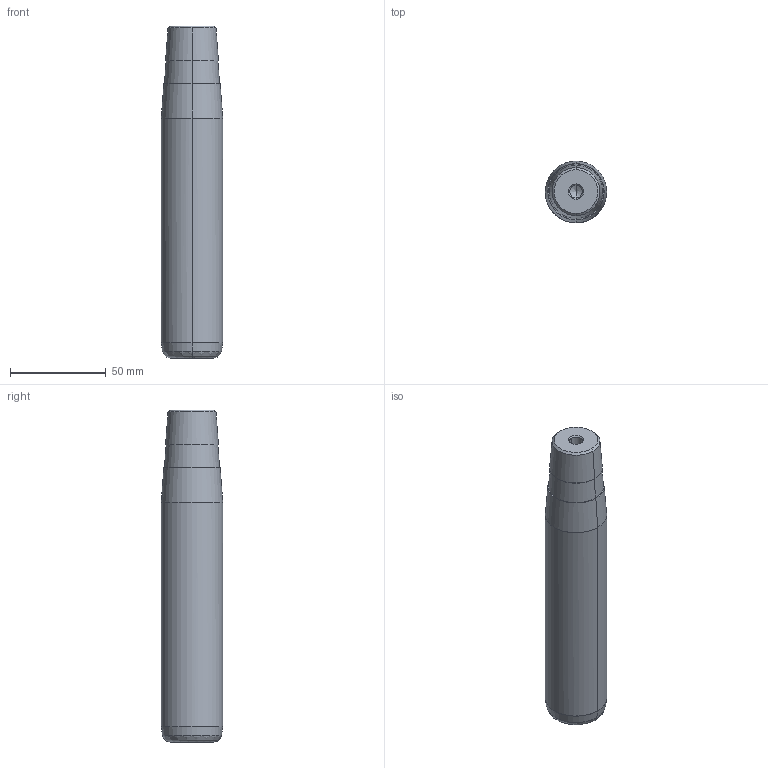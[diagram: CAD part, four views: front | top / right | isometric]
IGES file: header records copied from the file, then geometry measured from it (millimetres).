
Start section: START RECORD GO HERE.
Global section: file name: 722-32x140x173.igs; native system: DASSAULT SYSTEMES CATIA V5 R20 - www.3ds.com; preprocessor: CATIA Version 5 Release 20 ; author: Utente; organization: NB04-ASUS; date: 20210108.171238; units: millimetre
Bounding box: 32 x 32 x 173 mm (x, y, z)
Surface area: 18966.5 mm2 (no closed solid volume)
Topology: 0 solids, 0 shells, 32 faces, 192 edges, 188 vertices
Faces by surface type: revolution 30, plane 2
